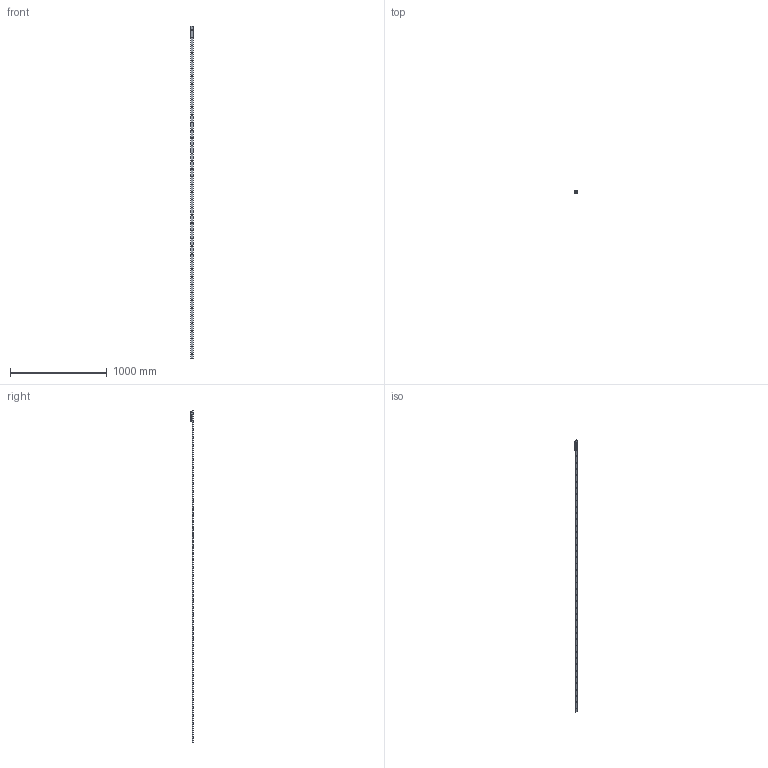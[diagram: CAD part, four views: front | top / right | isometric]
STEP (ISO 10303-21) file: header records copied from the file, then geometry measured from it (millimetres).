
FILE_DESCRIPTION( ( 'STEP AP214' ), '1' );
FILE_NAME( 'p:/temp/worker_23/temp/exporttempdir_484_49_U6J9w/format_1/TGV-03440_1_RV28G-3.stp', '2020-11-20T16:44:29', ( 'License CC BY-ND 4.0' ), ( 'CADENAS' ), ' ', 'PARTsolutions', ' ' );
FILE_SCHEMA( ( 'AUTOMOTIVE_DESIGN { 1 0 10303 214 1 1 1 1 }' ) );
Length unit declared in the file: millimetre
Products named in the file (6): TGV-03440/1/RV28G-3; _TGV28-3440-(3-1); _RV28G-3-slider; _RGNV28R; _RGAV28R; _WR28G-01
Assembly tree (7 placements, depth 2):
  TGV-03440/1/RV28G-3
    _TGV28-3440-(3-1)
    _RV28G-3-slider
    _RGNV28R  x2
    _RGAV28R
    _WR28G-01  x2
Bounding box: 28 x 24 x 3440 mm (x, y, z)
Volume: 533153.6 mm3; surface area: 343412.7 mm2
Topology: 7 solids, 7 shells, 1098 faces, 2860 edges, 1858 vertices
Faces by surface type: plane 657, cylinder 323, cone 83, bspline 26, torus 9
Full cylindrical faces by diameter (mm): 1.27 x4, 2 x2, 2.5 x6, 4 x4, 4.134 x4, 4.2 x3, 5 x3, 5.5 x3, 5.75 x43, 7 x5, 7.5 x1, 8 x6, 10.8 x3, 17 x3, 20.75 x6
Entity records: 27061 total; most frequent: CARTESIAN_POINT 4219, DIRECTION 3630, ORIENTED_EDGE 3252, EDGE_CURVE 1626, AXIS2_PLACEMENT_3D 1420, VERTEX_POINT 1158, EDGE_LOOP 1049, FACE_OUTER_BOUND 810
